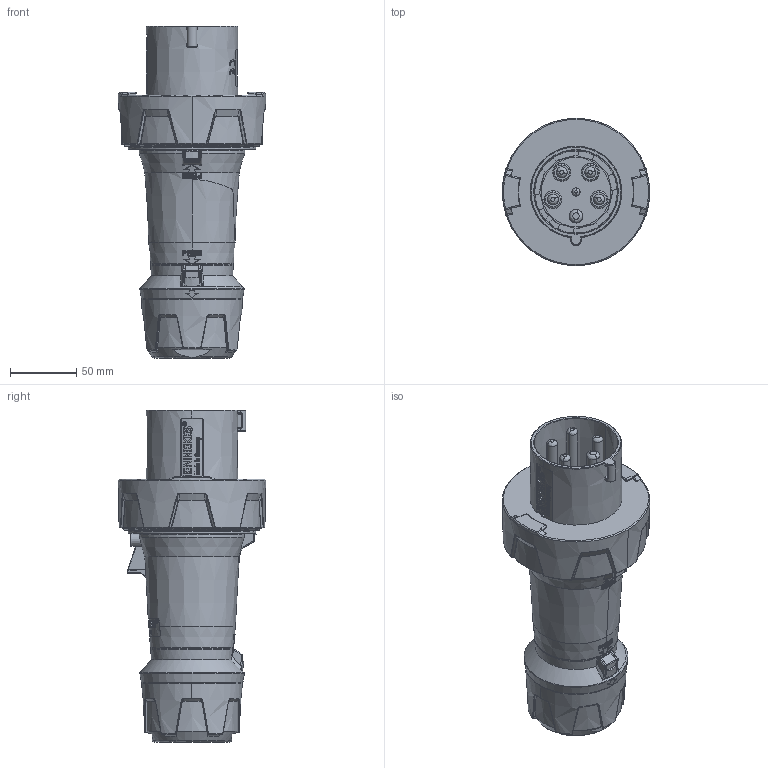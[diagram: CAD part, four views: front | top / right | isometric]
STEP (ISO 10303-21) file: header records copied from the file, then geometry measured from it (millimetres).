
FILE_DESCRIPTION((''),'2;1');
FILE_NAME('1115740_ASM_SW0001','2018-02-12T',('gisse'),('MENNEKES'),'PRO/ENGINEER BY PARAMETRIC TECHNOLOGY CORPORATION, 2015440','PRO/ENGINEER BY PARAMETRIC TECHNOLOGY CORPORATION, 2015440','');
FILE_SCHEMA(('AUTOMOTIVE_DESIGN { 1 0 10303 214 1 1 1 1 }'));
Products named in the file (1): 1115740_ASM_SW0001
Bounding box: 110.9 x 110.9 x 249.7 mm (x, y, z)
Volume: 984410.3 mm3; surface area: 105222 mm2
Topology: 1 solids, 1 shells, 2159 faces, 5807 edges, 3747 vertices
Faces by surface type: plane 700, extrusion 688, bspline 287, cone 194, cylinder 181, torus 77, sphere 32
Entity records: 111120 total; most frequent: CARTESIAN_POINT 35625, ORIENTED_EDGE 11614, DIRECTION 7038, EDGE_CURVE 5807, FILL_AREA_STYLE_COLOUR 4099, FILL_AREA_STYLE 4099, SURFACE_STYLE_FILL_AREA 4099, SURFACE_SIDE_STYLE 4099
